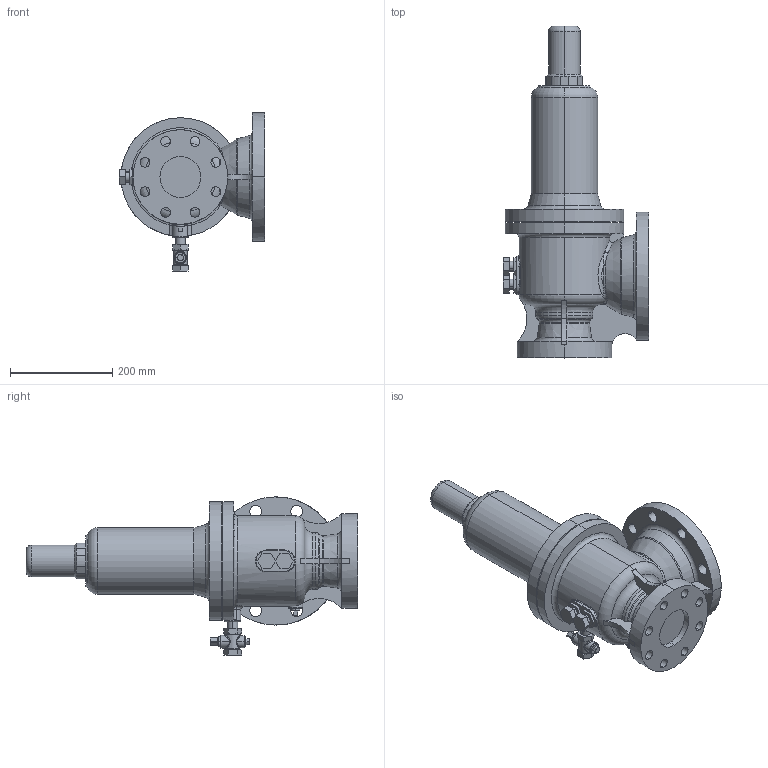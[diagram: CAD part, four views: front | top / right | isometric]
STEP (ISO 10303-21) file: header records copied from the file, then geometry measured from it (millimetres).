
FILE_DESCRIPTION (( 'STEP AP203' ), '1' );
FILE_NAME ('AF-4M 80A.STEP', '2024-07-31T01:44:49', ( '' ), ( '' ), 'SwSTEP 2.0', 'SolidWorks 2024', '' );
FILE_SCHEMA (( 'CONFIG_CONTROL_DESIGN' ));
Length unit declared in the file: millimetre
Products named in the file (6): キャップ 80A; 背圧絞り弁 80A; 止めボルト 80A; プラグ 10A; AF-4M 80A; AF-4 本体部P 80A
Assembly tree (6 placements, depth 2):
  AF-4M 80A
    AF-4 本体部P 80A
    プラグ 10A
    止めボルト 80A  x2
    背圧絞り弁 80A
    キャップ 80A
Bounding box: 284.5 x 649 x 309.31 mm (x, y, z)
Volume: 12215447.7 mm3; surface area: 634630.3 mm2
Topology: 6 solids, 6 shells, 398 faces, 1011 edges, 621 vertices
Faces by surface type: plane 135, cylinder 105, torus 60, bspline 53, cone 43, sphere 2
Entity records: 16289 total; most frequent: CARTESIAN_POINT 6924, ORIENTED_EDGE 1890, DIRECTION 1746, EDGE_CURVE 945, AXIS2_PLACEMENT_3D 719, VERTEX_POINT 593, EDGE_LOOP 430, CIRCLE 383
